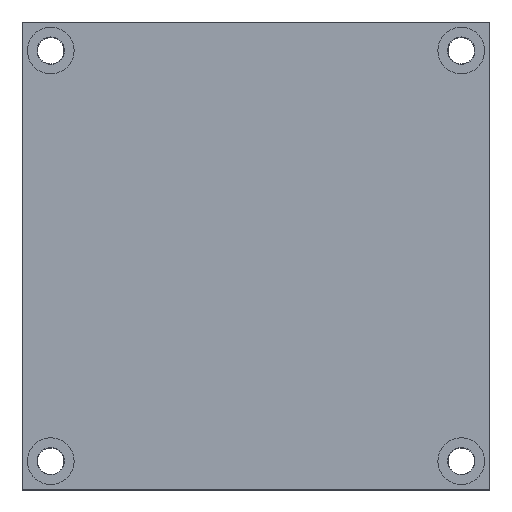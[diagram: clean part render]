
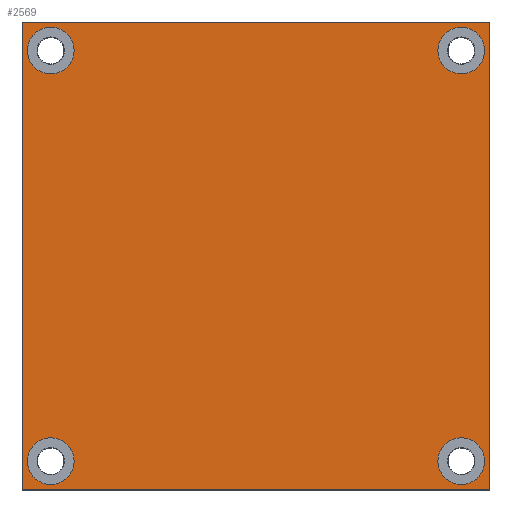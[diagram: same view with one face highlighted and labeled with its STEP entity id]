
A CAD part, top view. The second image highlights one B-rep face of the part: STEP entity #2569.
In plain terms, the highlighted planar face has unit normal (0, 0, 1).
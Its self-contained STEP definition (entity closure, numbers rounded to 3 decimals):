
#28 = DIRECTION ( 'NONE',  ( 1., 0., 0. ) ) ;
#31 = VERTEX_POINT ( 'NONE', #826 ) ;
#120 = DIRECTION ( 'NONE',  ( 0., -1., 0. ) ) ;
#132 = VERTEX_POINT ( 'NONE', #1076 ) ;
#150 = AXIS2_PLACEMENT_3D ( 'NONE', #2397, #1423, #241 ) ;
#173 = CARTESIAN_POINT ( 'NONE',  ( 79., -79., 32. ) ) ;
#177 = VERTEX_POINT ( 'NONE', #2396 ) ;
#187 = CARTESIAN_POINT ( 'NONE',  ( -70., 79., 32. ) ) ;
#201 = VERTEX_POINT ( 'NONE', #1210 ) ;
#237 = CIRCLE ( 'NONE', #658, 9. ) ;
#241 = DIRECTION ( 'NONE',  ( 1., 0., 0. ) ) ;
#252 = CARTESIAN_POINT ( 'NONE',  ( 79., 79., 32. ) ) ;
#277 = FACE_BOUND ( 'NONE', #924, .T. ) ;
#283 = ORIENTED_EDGE ( 'NONE', *, *, #2773, .T. ) ;
#290 = DIRECTION ( 'NONE',  ( 0., 0., 1. ) ) ;
#307 = AXIS2_PLACEMENT_3D ( 'NONE', #2656, #726, #443 ) ;
#342 = EDGE_LOOP ( 'NONE', ( #1131, #1078 ) ) ;
#344 = VERTEX_POINT ( 'NONE', #635 ) ;
#399 = CIRCLE ( 'NONE', #1003, 9. ) ;
#409 = EDGE_CURVE ( 'NONE', #344, #201, #1619, .T. ) ;
#422 = DIRECTION ( 'NONE',  ( 1., 0., 0. ) ) ;
#428 = ORIENTED_EDGE ( 'NONE', *, *, #1658, .F. ) ;
#438 = EDGE_CURVE ( 'NONE', #2107, #748, #237, .T. ) ;
#443 = DIRECTION ( 'NONE',  ( 1., 0., 0. ) ) ;
#451 = VECTOR ( 'NONE', #1102, 1000. ) ;
#452 = VECTOR ( 'NONE', #2300, 1000. ) ;
#475 = CARTESIAN_POINT ( 'NONE',  ( 88., -79., 32. ) ) ;
#488 = EDGE_CURVE ( 'NONE', #201, #344, #399, .T. ) ;
#497 = EDGE_CURVE ( 'NONE', #1028, #678, #809, .T. ) ;
#510 = EDGE_CURVE ( 'NONE', #678, #1028, #2427, .T. ) ;
#576 = DIRECTION ( 'NONE',  ( 0., 0., 1. ) ) ;
#635 = CARTESIAN_POINT ( 'NONE',  ( 88., 79., 32. ) ) ;
#658 = AXIS2_PLACEMENT_3D ( 'NONE', #2615, #1906, #1185 ) ;
#678 = VERTEX_POINT ( 'NONE', #686 ) ;
#686 = CARTESIAN_POINT ( 'NONE',  ( -70., -79., 32. ) ) ;
#689 = VERTEX_POINT ( 'NONE', #933 ) ;
#726 = DIRECTION ( 'NONE',  ( 0., 0., 1. ) ) ;
#748 = VERTEX_POINT ( 'NONE', #187 ) ;
#809 = CIRCLE ( 'NONE', #2580, 9. ) ;
#826 = CARTESIAN_POINT ( 'NONE',  ( -90., 90., 32. ) ) ;
#863 = DIRECTION ( 'NONE',  ( 1., 0., 0. ) ) ;
#880 = CARTESIAN_POINT ( 'NONE',  ( -90., -90., 32. ) ) ;
#892 = CARTESIAN_POINT ( 'NONE',  ( 79., 79., 32. ) ) ;
#924 = EDGE_LOOP ( 'NONE', ( #2065, #974 ) ) ;
#933 = CARTESIAN_POINT ( 'NONE',  ( 90., 90., 32. ) ) ;
#935 = EDGE_CURVE ( 'NONE', #2621, #689, #1067, .T. ) ;
#942 = EDGE_CURVE ( 'NONE', #748, #2107, #2336, .T. ) ;
#974 = ORIENTED_EDGE ( 'NONE', *, *, #488, .F. ) ;
#1003 = AXIS2_PLACEMENT_3D ( 'NONE', #252, #576, #2195 ) ;
#1028 = VERTEX_POINT ( 'NONE', #1138 ) ;
#1058 = AXIS2_PLACEMENT_3D ( 'NONE', #2469, #290, #28 ) ;
#1067 = LINE ( 'NONE', #1299, #2888 ) ;
#1076 = CARTESIAN_POINT ( 'NONE',  ( 70., -79., 32. ) ) ;
#1078 = ORIENTED_EDGE ( 'NONE', *, *, #438, .F. ) ;
#1080 = DIRECTION ( 'NONE',  ( 0., 1., 0. ) ) ;
#1102 = DIRECTION ( 'NONE',  ( 1., 0., 0. ) ) ;
#1131 = ORIENTED_EDGE ( 'NONE', *, *, #942, .F. ) ;
#1138 = CARTESIAN_POINT ( 'NONE',  ( -88., -79., 32. ) ) ;
#1156 = CIRCLE ( 'NONE', #1571, 9. ) ;
#1185 = DIRECTION ( 'NONE',  ( 1., 0., 0. ) ) ;
#1210 = CARTESIAN_POINT ( 'NONE',  ( 70., 79., 32. ) ) ;
#1261 = CIRCLE ( 'NONE', #307, 9. ) ;
#1299 = CARTESIAN_POINT ( 'NONE',  ( 90., 90., 32. ) ) ;
#1323 = CARTESIAN_POINT ( 'NONE',  ( -90., 90., 32. ) ) ;
#1423 = DIRECTION ( 'NONE',  ( 0., 0., 1. ) ) ;
#1447 = FACE_BOUND ( 'NONE', #342, .T. ) ;
#1457 = ORIENTED_EDGE ( 'NONE', *, *, #510, .F. ) ;
#1502 = EDGE_LOOP ( 'NONE', ( #1794, #2962, #2869, #283 ) ) ;
#1547 = DIRECTION ( 'NONE',  ( 1., 0., 0. ) ) ;
#1571 = AXIS2_PLACEMENT_3D ( 'NONE', #173, #3066, #863 ) ;
#1604 = EDGE_CURVE ( 'NONE', #689, #31, #2531, .T. ) ;
#1605 = DIRECTION ( 'NONE',  ( 0., 0., 1. ) ) ;
#1619 = CIRCLE ( 'NONE', #2067, 9. ) ;
#1624 = AXIS2_PLACEMENT_3D ( 'NONE', #2822, #1605, #1547 ) ;
#1658 = EDGE_CURVE ( 'NONE', #2599, #132, #1261, .T. ) ;
#1700 = FACE_OUTER_BOUND ( 'NONE', #1502, .T. ) ;
#1794 = ORIENTED_EDGE ( 'NONE', *, *, #935, .T. ) ;
#1906 = DIRECTION ( 'NONE',  ( 0., 0., 1. ) ) ;
#1939 = DIRECTION ( 'NONE',  ( 0., 0., 1. ) ) ;
#1952 = ORIENTED_EDGE ( 'NONE', *, *, #497, .F. ) ;
#2053 = CARTESIAN_POINT ( 'NONE',  ( 90., -90., 32. ) ) ;
#2065 = ORIENTED_EDGE ( 'NONE', *, *, #409, .F. ) ;
#2067 = AXIS2_PLACEMENT_3D ( 'NONE', #892, #2099, #422 ) ;
#2085 = CARTESIAN_POINT ( 'NONE',  ( -90., 90., 32. ) ) ;
#2099 = DIRECTION ( 'NONE',  ( 0., 0., 1. ) ) ;
#2107 = VERTEX_POINT ( 'NONE', #2288 ) ;
#2150 = EDGE_CURVE ( 'NONE', #31, #177, #2551, .T. ) ;
#2195 = DIRECTION ( 'NONE',  ( 1., 0., 0. ) ) ;
#2265 = EDGE_LOOP ( 'NONE', ( #428, #2515 ) ) ;
#2288 = CARTESIAN_POINT ( 'NONE',  ( -88., 79., 32. ) ) ;
#2300 = DIRECTION ( 'NONE',  ( -1., 0., 0. ) ) ;
#2336 = CIRCLE ( 'NONE', #1624, 9. ) ;
#2396 = CARTESIAN_POINT ( 'NONE',  ( -90., -90., 32. ) ) ;
#2397 = CARTESIAN_POINT ( 'NONE',  ( 0., 0., 32. ) ) ;
#2410 = FACE_BOUND ( 'NONE', #2265, .T. ) ;
#2427 = CIRCLE ( 'NONE', #1058, 9. ) ;
#2469 = CARTESIAN_POINT ( 'NONE',  ( -79., -79., 32. ) ) ;
#2515 = ORIENTED_EDGE ( 'NONE', *, *, #3133, .F. ) ;
#2531 = LINE ( 'NONE', #1323, #452 ) ;
#2551 = LINE ( 'NONE', #2085, #2942 ) ;
#2569 = ADVANCED_FACE ( 'NONE', ( #2904, #1447, #277, #2410, #1700 ), #2667, .T. ) ;
#2580 = AXIS2_PLACEMENT_3D ( 'NONE', #2728, #1939, #2678 ) ;
#2599 = VERTEX_POINT ( 'NONE', #475 ) ;
#2615 = CARTESIAN_POINT ( 'NONE',  ( -79., 79., 32. ) ) ;
#2621 = VERTEX_POINT ( 'NONE', #2053 ) ;
#2656 = CARTESIAN_POINT ( 'NONE',  ( 79., -79., 32. ) ) ;
#2667 = PLANE ( 'NONE',  #150 ) ;
#2678 = DIRECTION ( 'NONE',  ( 1., 0., 0. ) ) ;
#2728 = CARTESIAN_POINT ( 'NONE',  ( -79., -79., 32. ) ) ;
#2773 = EDGE_CURVE ( 'NONE', #177, #2621, #2857, .T. ) ;
#2822 = CARTESIAN_POINT ( 'NONE',  ( -79., 79., 32. ) ) ;
#2857 = LINE ( 'NONE', #880, #451 ) ;
#2869 = ORIENTED_EDGE ( 'NONE', *, *, #2150, .T. ) ;
#2888 = VECTOR ( 'NONE', #1080, 1000. ) ;
#2904 = FACE_BOUND ( 'NONE', #2960, .T. ) ;
#2942 = VECTOR ( 'NONE', #120, 1000. ) ;
#2960 = EDGE_LOOP ( 'NONE', ( #1457, #1952 ) ) ;
#2962 = ORIENTED_EDGE ( 'NONE', *, *, #1604, .T. ) ;
#3066 = DIRECTION ( 'NONE',  ( 0., 0., 1. ) ) ;
#3133 = EDGE_CURVE ( 'NONE', #132, #2599, #1156, .T. ) ;
